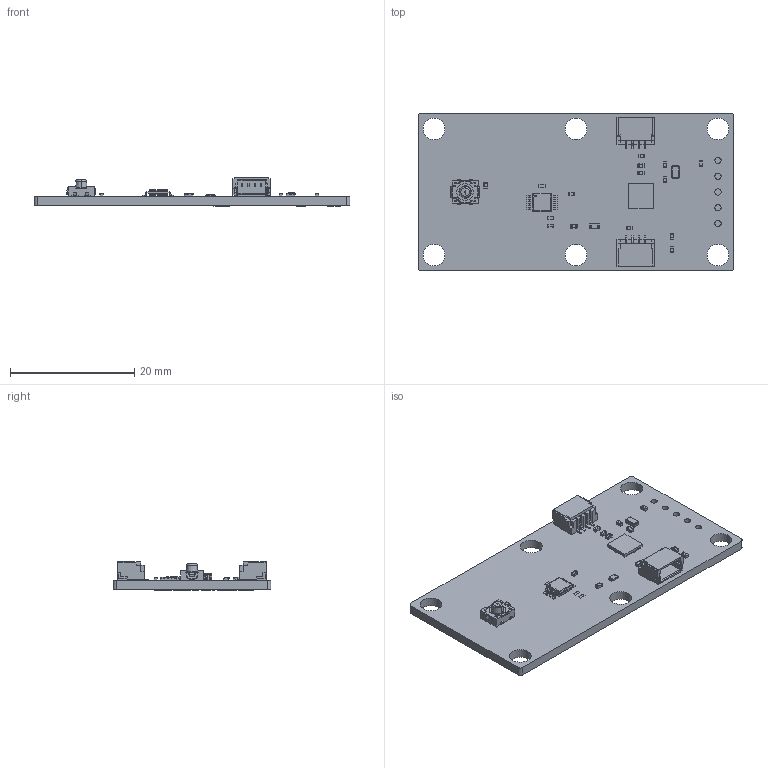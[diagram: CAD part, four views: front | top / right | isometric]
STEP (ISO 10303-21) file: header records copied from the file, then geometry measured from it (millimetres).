
FILE_DESCRIPTION(('STEP AP214'),'1');
FILE_NAME('ForceECO.step','2026-07-14T20:14:50',(' '),(' '),'Spatial InterOp 3D','XD3DPlugin XRACreate',' ');
FILE_SCHEMA(('automotive_design'));
Length unit declared in the file: millimetre
Products named in the file (51): DesignRootModel; uid__9223372036936820295; Submodel-T:\Core EE\CTB\Cirque - Active 5.19.26\Quiic\Layout\Force\Force_Both\ForceECO_PCB\3D\ImportedPartModels\HSFPAR004A.stp; HSFPAR004A.xtd; Submodel-HSFPAR004A_part_HSFPAR004A; Submodel-noModelForPart_RK73G1ETTP3001F_3420161275; placementOutline; Submodel-RK73G1ETTP3001F_3420161275_part_RKE_0402; Submodel-noModelForPart_RK73G1ETTP1002F_3420161275; Submodel-RK73G1ETTP1002F_3420161275_part_RKE_0402; Submodel-T:\Core EE\CTB\Cirque - Active 5.19.26\Quiic\Layout\Force\Force_Both\ForceECO_PCB\3D\ImportedPartModels\HSFPAR304A.STEP; HSFPAR304A.xtd; Submodel-HSFPAR304A_part_HSFPAR304A_TEMP; Submodel-noModelForPart_RK73G1ETTP4021F_3420161275; Submodel-RK73G1ETTP4021F_3420161275_part_RKE_0402; Submodel-noModelForPart_1_PIN_HEADER_3850110376; Submodel-1_PIN_HEADER_3850110376_part_JMP1; Submodel-T:\Core EE\CTB\Cirque - Active 5.19.26\Quiic\Layout\Force\Force_Both\ForceECO_PCB\3D\ImportedPartModels\INA333AIDGKR.step; INA333AIDGKR.xtd; Submodel-INA333_part_VSSOP-8-TEMP; Submodel-T:\Core EE\CTB\Cirque - Active 5.19.26\Quiic\Layout\Force\Force_Both\ForceECO_PCB\3D\ImportedPartModels\GCM1555C1H471FA16D.step; GCM1555C1H471FA16D.xtd; Submodel-GCM155R71A104KA55D_part_RKE_0402; Submodel-noModelForPart_SOLDERJUMPER3PIN_1695375081; Submodel-SOLDERJUMPER3PIN_1695375081_part_SOLDERJUMPER-3_BRIDGED; Submodel-noModelForPart_SOLDERJUMPER1_126423164; Submodel-SOLDERJUMPER1_126423164_part_SOLDERJUMPER_2P1_3MM; Submodel-RK73G1ETTP5100F_part_RKE_0402; Submodel-T:\Core EE\CTB\Cirque - Active 5.19.26\Quiic\Layout\Force\Force_Both\ForceECO_PCB\3D\ImportedPartModels\LTST-C193KRKT-5A.STEP; LTST-C193KRKT-5A.xtd; Submodel-LTST-C193KRKT-5A_part_RKE_0603_DIODE; Submodel-T:\Core EE\CTB\Cirque - Active 5.19.26\Quiic\Layout\Force\Force_Both\ForceECO_PCB\3D\ImportedPartModels\STM32G071GBU6.step; STM32G071GBU6.xtd; Submodel-STM32G071GXU_part_UFQFPN_28; Submodel-T:\Core EE\CTB\Cirque - Active 5.19.26\Quiic\Layout\Force\Force_Both\ForceECO_PCB\3D\ImportedPartModels\SM04B-SRSS-TB.STEP; SM04B-SRSS-TB.xtd; Submodel-SM04B-SRSS-TB_part_CONN_SM04B_SRSS_TB_JST; Submodel-RK73B1ETTP103J_part_RKE_0402; Submodel-GRM155R61A475MEAAD_part_RKE_0402; Submodel-GCM1555C1H5R0BA16D_part_RKE_0402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
Assembly tree (67 placements, depth 5):
  ForceECO
    DesignRootModel
      uid__9223372036936820295
      Submodel-HSFPAR004A_part_HSFPAR004A
        Submodel-T:\Core EE\CTB\Cirque - Active 5.19.26\Quiic\Layout\Force\Force_Both\ForceECO_PCB\3D\ImportedPartModels\HSFPAR004A.stp
          HSFPAR004A.xtd
      Submodel-RK73G1ETTP3001F_3420161275_part_RKE_0402
        Submodel-noModelForPart_RK73G1ETTP3001F_3420161275
          placementOutline
      Submodel-RK73G1ETTP1002F_3420161275_part_RKE_0402
        Submodel-noModelForPart_RK73G1ETTP1002F_3420161275
          placementOutline
      Submodel-HSFPAR304A_part_HSFPAR304A_TEMP
        Submodel-T:\Core EE\CTB\Cirque - Active 5.19.26\Quiic\Layout\Force\Force_Both\ForceECO_PCB\3D\ImportedPartModels\HSFPAR304A.STEP
          HSFPAR304A.xtd
      Submodel-RK73G1ETTP4021F_3420161275_part_RKE_0402
        Submodel-noModelForPart_RK73G1ETTP4021F_3420161275
          placementOutline
      Submodel-1_PIN_HEADER_3850110376_part_JMP1  x5
        Submodel-noModelForPart_1_PIN_HEADER_3850110376
          placementOutline
      Submodel-INA333_part_VSSOP-8-TEMP
        Submodel-T:\Core EE\CTB\Cirque - Active 5.19.26\Quiic\Layout\Force\Force_Both\ForceECO_PCB\3D\ImportedPartModels\INA333AIDGKR.step
          INA333AIDGKR.xtd
      Submodel-GCM155R71A104KA55D_part_RKE_0402  x3
        Submodel-T:\Core EE\CTB\Cirque - Active 5.19.26\Quiic\Layout\Force\Force_Both\ForceECO_PCB\3D\ImportedPartModels\GCM1555C1H471FA16D.step
          GCM1555C1H471FA16D.xtd
      Submodel-SOLDERJUMPER3PIN_1695375081_part_SOLDERJUMPER-3_BRIDGED
        Submodel-noModelForPart_SOLDERJUMPER3PIN_1695375081
          placementOutline
      Submodel-SOLDERJUMPER1_126423164_part_SOLDERJUMPER_2P1_3MM  x2
        Submodel-noModelForPart_SOLDERJUMPER1_126423164
          placementOutline
      Submodel-RK73G1ETTP5100F_part_RKE_0402
        Submodel-T:\Core EE\CTB\Cirque - Active 5.19.26\Quiic\Layout\Force\Force_Both\ForceECO_PCB\3D\ImportedPartModels\GCM1555C1H471FA16D.step
          GCM1555C1H471FA16D.xtd
      Submodel-LTST-C193KRKT-5A_part_RKE_0603_DIODE
        Submodel-T:\Core EE\CTB\Cirque - Active 5.19.26\Quiic\Layout\Force\Force_Both\ForceECO_PCB\3D\ImportedPartModels\LTST-C193KRKT-5A.STEP
          LTST-C193KRKT-5A.xtd
      Submodel-STM32G071GXU_part_UFQFPN_28
        Submodel-T:\Core EE\CTB\Cirque - Active 5.19.26\Quiic\Layout\Force\Force_Both\ForceECO_PCB\3D\ImportedPartModels\STM32G071GBU6.step
          STM32G071GBU6.xtd
      Submodel-SM04B-SRSS-TB_part_CONN_SM04B_SRSS_TB_JST  x2
        Submodel-T:\Core EE\CTB\Cirque - Active 5.19.26\Quiic\Layout\Force\Force_Both\ForceECO_PCB\3D\ImportedPartModels\SM04B-SRSS-TB.STEP
          SM04B-SRSS-TB.xtd
      Submodel-RK73B1ETTP103J_part_RKE_0402  x2
        Submodel-T:\Core EE\CTB\Cirque - Active 5.19.26\Quiic\Layout\Force\Force_Both\ForceECO_PCB\3D\ImportedPartModels\GCM1555C1H471FA16D.step
          GCM1555C1H471FA16D.xtd
      Submodel-GRM155R61A475MEAAD_part_RKE_0402
        Submodel-T:\Core EE\CTB\Cirque - Active 5.19.26\Quiic\Layout\Force\Force_Both\ForceECO_PCB\3D\ImportedPartModels\GCM1555C1H471FA16D.step
          GCM1555C1H471FA16D.xtd
      Submodel-GCM1555C1H5R0BA16D_part_RKE_0402  x2
        Submodel-T:\Core EE\CTB\Cirque - Active 5.19.26\Quiic\Layout\Force\Force_Both\ForceECO_PCB\3D\ImportedPartModels\GCM1555C1H471FA16D.step
          GCM1555C1H471FA16D.xtd
      Submodel-GCM155R71C104JA55D_part_RKE_0402  x3
        Submodel-T:\Core EE\CTB\Cirque - Active 5.19.26\Quiic\Layout\Force\Force_Both\ForceECO_PCB\3D\ImportedPartModels\GCM1555C1H471FA16D.step
          GCM1555C1H471FA16D.xtd
      Submodel-ECS-R327-6-12RR-TR_part_2012_XTAL
        Submodel-T:\Core EE\CTB\Cirque - Active 5.19.26\Quiic\Layout\Force\Force_Both\ForceECO_PCB\3D\ImportedPartModels\ECS-.327-6-12RR-TR.STEP
          ECS-.327-6-12RR-TR.xtd
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Bounding box: 50.8 x 25.4 x 4.51 mm (x, y, z)
Volume: 1973 mm3; surface area: 3523.3 mm2
Topology: 122 solids, 122 shells, 2397 faces, 6068 edges, 3813 vertices
Faces by surface type: plane 1647, cylinder 618, sphere 106, cone 12, torus 10, bspline 4
Full cylindrical faces by diameter (mm): 1 x5, 3.5 x6
Entity records: 369693 total; most frequent: ORIENTED_EDGE 70174, DIRECTION 61446, EDGE_CURVE 35087, LINE 34108, VECTOR 34108, CARTESIAN_POINT 29494, VERTEX_POINT 23327, AXIS2_PLACEMENT_3D 13669
